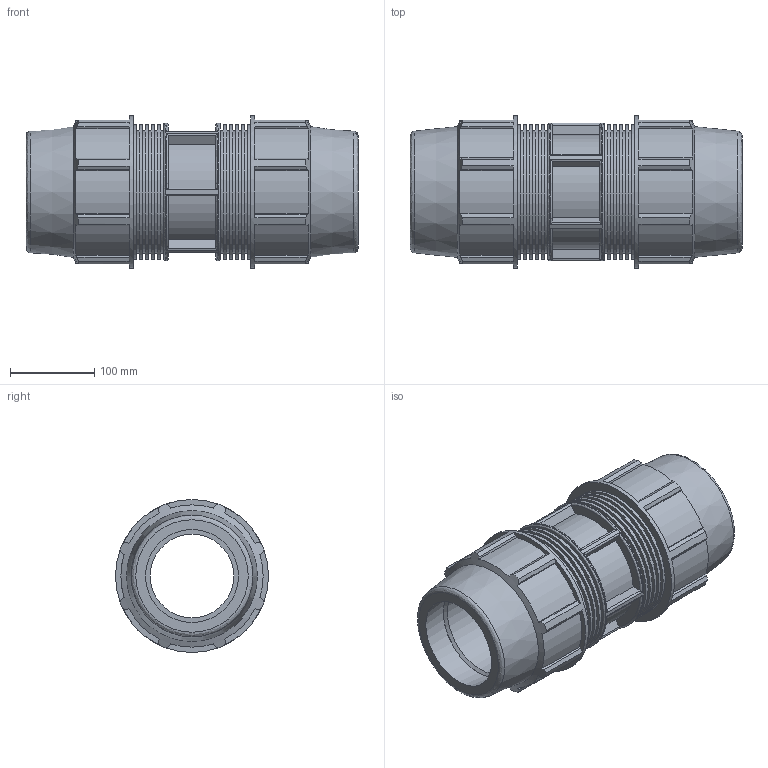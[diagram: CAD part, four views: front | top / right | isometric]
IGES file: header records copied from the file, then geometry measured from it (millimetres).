
Global section: file name: 0701061100A.ipt; native system: Autodesk Inventor 2015; preprocessor: unknown; author: KIM; date: 20180325.201116; units: millimetre
Bounding box: 393 x 181 x 181 mm (x, y, z)
Volume: 3832960.7 mm3; surface area: 466954.2 mm2
Topology: 1 solids, 1 shells, 216 faces, 561 edges, 378 vertices
Faces by surface type: plane 132, cylinder 57, revolution 23, cone 4
Full cylindrical faces by diameter (mm): 144.8 x10, 159.642 x10, 162.9 x1, 181 x2
